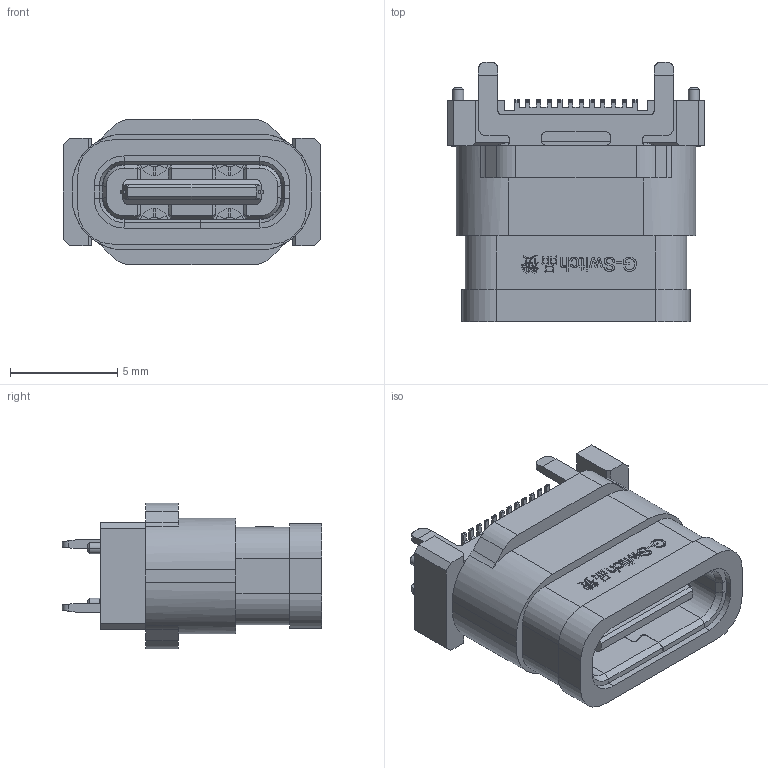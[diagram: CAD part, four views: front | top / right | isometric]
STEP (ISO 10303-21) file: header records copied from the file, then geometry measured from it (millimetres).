
FILE_DESCRIPTION (( 'STEP AP203' ), '1' );
FILE_NAME ('GT-USB-7096B.STEP', '2023-04-08T02:26:26', ( '' ), ( '' ), 'SwSTEP 2.0', 'SolidWorks 2023', '' );
FILE_SCHEMA (( 'CONFIG_CONTROL_DESIGN' ));
Products named in the file (1): GT-USB-7096B
Bounding box: 12 x 12.1 x 6.8 mm (x, y, z)
Volume: 416.1 mm3; surface area: 1225.1 mm2
Topology: 2 solids, 34 shells, 1532 faces, 4102 edges, 2648 vertices
Faces by surface type: plane 1211, cylinder 221, bspline 74, cone 26
Entity records: 51030 total; most frequent: CARTESIAN_POINT 13318, ORIENTED_EDGE 8204, DIRECTION 7072, EDGE_CURVE 4102, VECTOR 3322, LINE 3322, VERTEX_POINT 2648, AXIS2_PLACEMENT_3D 1875
